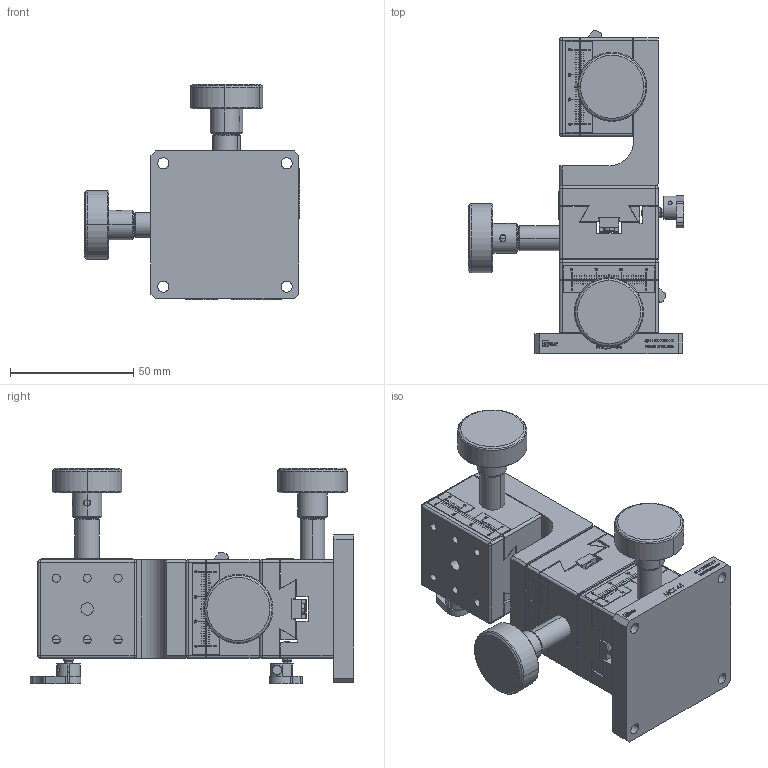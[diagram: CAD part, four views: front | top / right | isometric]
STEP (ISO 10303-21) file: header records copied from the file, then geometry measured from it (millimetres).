
FILE_DESCRIPTION (( 'STEP AP203' ), '1' );
FILE_NAME ('MCT-44-(«¬¿ý).STEP', '2013-10-05T03:05:09', ( '' ), ( '' ), 'SwSTEP 2.0', 'SolidWorks 2013', '' );
FILE_SCHEMA (( 'CONFIG_CONTROL_DESIGN' ));
Length unit declared in the file: millimetre
Products named in the file (7): Group5^MCT-44-(型錄); Group2^MCT-44-(型錄); Group3^MCT-44-(型錄); Group6^MCT-44-(型錄); Group1^MCT-44-(型錄); Group4^MCT-44-(型錄); MCT-44-(型錄)
Assembly tree (6 placements, depth 2):
  MCT-44-(型錄)
    Group5^MCT-44-(型錄)
    Group2^MCT-44-(型錄)
    Group3^MCT-44-(型錄)
    Group6^MCT-44-(型錄)
    Group1^MCT-44-(型錄)
    Group4^MCT-44-(型錄)
Bounding box: 87.3 x 131.02 x 87.3 mm (x, y, z)
Volume: 228612.5 mm3; surface area: 67028.3 mm2
Topology: 6 solids, 6 shells, 2352 faces, 6258 edges, 4047 vertices
Faces by surface type: plane 1585, bspline 311, cylinder 248, cone 156, torus 28, sphere 24
Entity records: 94758 total; most frequent: CARTESIAN_POINT 37365, ORIENTED_EDGE 12466, DIRECTION 10449, EDGE_CURVE 6233, VECTOR 4577, LINE 4577, VERTEX_POINT 4046, AXIS2_PLACEMENT_3D 2936
